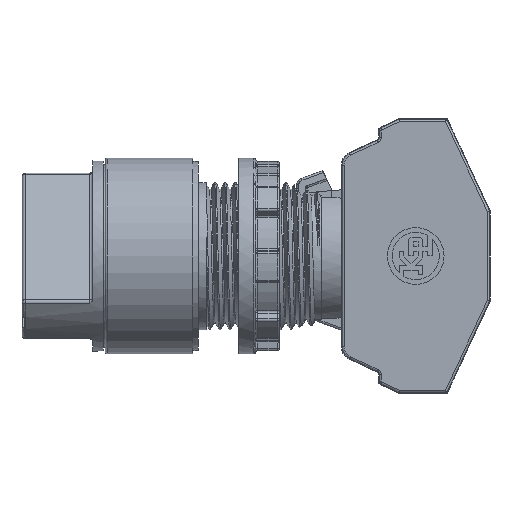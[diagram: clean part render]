
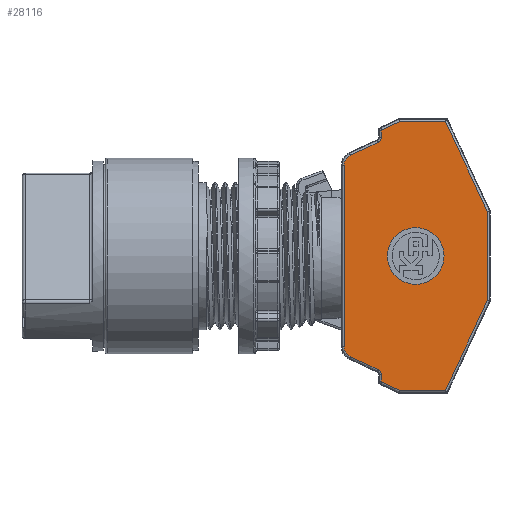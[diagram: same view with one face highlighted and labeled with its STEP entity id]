
A CAD part, front view. The second image highlights one B-rep face of the part: STEP entity #28116.
In plain terms, the highlighted planar face has unit normal (0, -1, 0) as drawn and (0, 0, 1) by its records, which use the part's own axes.
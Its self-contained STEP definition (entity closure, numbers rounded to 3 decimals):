
#23175=CARTESIAN_POINT('',(37.2,0.,14.8));
#23176=VERTEX_POINT('',#23175);
#23177=CARTESIAN_POINT('',(33.0,0.,14.8));
#23178=DIRECTION('',(0.0,0.0,-1.0));
#23179=DIRECTION('',(-1.0,0.0,0.0));
#23180=AXIS2_PLACEMENT_3D('',#23177,#23178,#23179);
#23181=CIRCLE('',#23180,4.2);
#23182=EDGE_CURVE('',#23176,#23176,#23181,.T.);
#27301=CARTESIAN_POINT('',(27.9,18.519,14.8));
#27302=VERTEX_POINT('',#27301);
#27310=CARTESIAN_POINT('',(28.015,18.7,14.8));
#27311=VERTEX_POINT('',#27310);
#27312=CARTESIAN_POINT('',(28.1,18.519,14.8));
#27313=DIRECTION('',(0.,0.,-1.0));
#27314=DIRECTION('',(-0.843,0.537,0.));
#27315=AXIS2_PLACEMENT_3D('',#27312,#27313,#27314);
#27316=CIRCLE('',#27315,0.2);
#27317=EDGE_CURVE('',#27302,#27311,#27316,.T.);
#27345=CARTESIAN_POINT('',(27.9,17.555,14.8));
#27346=VERTEX_POINT('',#27345);
#27354=CARTESIAN_POINT('',(27.9,17.555,14.8));
#27355=DIRECTION('',(0.0,1.0,0.0));
#27356=VECTOR('',#27355,0.964);
#27357=LINE('',#27354,#27356);
#27358=EDGE_CURVE('',#27346,#27302,#27357,.T.);
#27384=CARTESIAN_POINT('',(30.589,19.9,14.8));
#27385=VERTEX_POINT('',#27384);
#27386=CARTESIAN_POINT('',(28.015,18.7,14.8));
#27387=DIRECTION('',(0.906,0.423,0.));
#27388=VECTOR('',#27387,2.839);
#27389=LINE('',#27386,#27388);
#27390=EDGE_CURVE('',#27311,#27385,#27389,.T.);
#27409=CARTESIAN_POINT('',(27.438,16.83,14.8));
#27410=VERTEX_POINT('',#27409);
#27418=CARTESIAN_POINT('',(27.1,17.555,14.8));
#27419=DIRECTION('',(0.,0.,1.0));
#27420=DIRECTION('',(0.843,-0.537,0.));
#27421=AXIS2_PLACEMENT_3D('',#27418,#27419,#27420);
#27422=CIRCLE('',#27421,0.8);
#27423=EDGE_CURVE('',#27410,#27346,#27422,.T.);
#27441=CARTESIAN_POINT('',(37.403,19.9,14.8));
#27442=VERTEX_POINT('',#27441);
#27443=CARTESIAN_POINT('',(30.589,19.9,14.8));
#27444=DIRECTION('',(1.0,0.0,0.0));
#27445=VECTOR('',#27444,6.815);
#27446=LINE('',#27443,#27445);
#27447=EDGE_CURVE('',#27385,#27442,#27446,.T.);
#27475=CARTESIAN_POINT('',(23.324,14.911,14.8));
#27476=VERTEX_POINT('',#27475);
#27484=CARTESIAN_POINT('',(23.324,14.911,14.8));
#27485=DIRECTION('',(0.906,0.423,0.0));
#27486=VECTOR('',#27485,4.54);
#27487=LINE('',#27484,#27486);
#27488=EDGE_CURVE('',#27476,#27410,#27487,.T.);
#27505=CARTESIAN_POINT('',(43.6,6.611,14.8));
#27506=VERTEX_POINT('',#27505);
#27507=CARTESIAN_POINT('',(37.403,19.9,14.8));
#27508=DIRECTION('',(0.423,-0.906,0.));
#27509=VECTOR('',#27508,14.662);
#27510=LINE('',#27507,#27509);
#27511=EDGE_CURVE('',#27442,#27506,#27510,.T.);
#27537=CARTESIAN_POINT('',(22.4,13.461,14.8));
#27538=VERTEX_POINT('',#27537);
#27546=CARTESIAN_POINT('',(24.,13.461,14.8));
#27547=DIRECTION('',(0.,0.,-1.0));
#27548=DIRECTION('',(-0.843,0.537,0.));
#27549=AXIS2_PLACEMENT_3D('',#27546,#27547,#27548);
#27550=CIRCLE('',#27549,1.6);
#27551=EDGE_CURVE('',#27538,#27476,#27550,.T.);
#27569=CARTESIAN_POINT('',(43.6,-6.611,14.8));
#27570=VERTEX_POINT('',#27569);
#27571=CARTESIAN_POINT('',(43.6,6.611,14.8));
#27572=DIRECTION('',(0.0,-1.0,0.0));
#27573=VECTOR('',#27572,13.223);
#27574=LINE('',#27571,#27573);
#27575=EDGE_CURVE('',#27506,#27570,#27574,.T.);
#27601=CARTESIAN_POINT('',(22.4,-13.461,14.8));
#27602=VERTEX_POINT('',#27601);
#27610=CARTESIAN_POINT('',(22.4,-13.461,14.8));
#27611=DIRECTION('',(0.0,1.0,0.0));
#27612=VECTOR('',#27611,26.922);
#27613=LINE('',#27610,#27612);
#27614=EDGE_CURVE('',#27602,#27538,#27613,.T.);
#27626=CARTESIAN_POINT('',(37.403,-19.9,14.8));
#27627=VERTEX_POINT('',#27626);
#27628=CARTESIAN_POINT('',(43.6,-6.611,14.8));
#27629=DIRECTION('',(-0.423,-0.906,0.));
#27630=VECTOR('',#27629,14.662);
#27631=LINE('',#27628,#27630);
#27632=EDGE_CURVE('',#27570,#27627,#27631,.T.);
#27660=CARTESIAN_POINT('',(23.324,-14.911,14.8));
#27661=VERTEX_POINT('',#27660);
#27669=CARTESIAN_POINT('',(24.,-13.461,14.8));
#27670=DIRECTION('',(0.,0.,-1.0));
#27671=DIRECTION('',(-0.843,-0.537,0.));
#27672=AXIS2_PLACEMENT_3D('',#27669,#27670,#27671);
#27673=CIRCLE('',#27672,1.6);
#27674=EDGE_CURVE('',#27661,#27602,#27673,.T.);
#27692=CARTESIAN_POINT('',(30.589,-19.9,14.8));
#27693=VERTEX_POINT('',#27692);
#27694=CARTESIAN_POINT('',(37.403,-19.9,14.8));
#27695=DIRECTION('',(-1.0,0.0,0.0));
#27696=VECTOR('',#27695,6.815);
#27697=LINE('',#27694,#27696);
#27698=EDGE_CURVE('',#27627,#27693,#27697,.T.);
#27726=CARTESIAN_POINT('',(27.438,-16.83,14.8));
#27727=VERTEX_POINT('',#27726);
#27735=CARTESIAN_POINT('',(27.438,-16.83,14.8));
#27736=DIRECTION('',(-0.906,0.423,0.0));
#27737=VECTOR('',#27736,4.54);
#27738=LINE('',#27735,#27737);
#27739=EDGE_CURVE('',#27727,#27661,#27738,.T.);
#27756=CARTESIAN_POINT('',(28.015,-18.7,14.8));
#27757=VERTEX_POINT('',#27756);
#27774=CARTESIAN_POINT('',(30.589,-19.9,14.8));
#27775=DIRECTION('',(-0.906,0.423,0.0));
#27776=VECTOR('',#27775,2.839);
#27777=LINE('',#27774,#27776);
#27778=EDGE_CURVE('',#27693,#27757,#27777,.T.);
#27790=CARTESIAN_POINT('',(27.9,-17.555,14.8));
#27791=VERTEX_POINT('',#27790);
#27799=CARTESIAN_POINT('',(27.1,-17.555,14.8));
#27800=DIRECTION('',(0.,0.,1.0));
#27801=DIRECTION('',(0.843,0.537,0.));
#27802=AXIS2_PLACEMENT_3D('',#27799,#27800,#27801);
#27803=CIRCLE('',#27802,0.8);
#27804=EDGE_CURVE('',#27791,#27727,#27803,.T.);
#27840=CARTESIAN_POINT('',(27.9,-18.519,14.8));
#27841=VERTEX_POINT('',#27840);
#27859=CARTESIAN_POINT('',(28.1,-18.519,14.8));
#27860=DIRECTION('',(0.,0.,-1.0));
#27861=DIRECTION('',(-0.843,-0.537,0.));
#27862=AXIS2_PLACEMENT_3D('',#27859,#27860,#27861);
#27863=CIRCLE('',#27862,0.2);
#27864=EDGE_CURVE('',#27757,#27841,#27863,.T.);
#27882=CARTESIAN_POINT('',(27.9,-18.519,14.8));
#27883=DIRECTION('',(0.0,1.0,0.0));
#27884=VECTOR('',#27883,0.964);
#27885=LINE('',#27882,#27884);
#27886=EDGE_CURVE('',#27841,#27791,#27885,.T.);
#28088=CARTESIAN_POINT('',(32.411,0.,14.8));
#28089=DIRECTION('',(0.0,0.0,1.0));
#28090=DIRECTION('',(1.0,0.0,0.0));
#28091=AXIS2_PLACEMENT_3D('',#28088,#28089,#28090);
#28092=PLANE('',#28091);
#28093=ORIENTED_EDGE('',*,*,#27317,.F.);
#28094=ORIENTED_EDGE('',*,*,#27358,.F.);
#28095=ORIENTED_EDGE('',*,*,#27423,.F.);
#28096=ORIENTED_EDGE('',*,*,#27488,.F.);
#28097=ORIENTED_EDGE('',*,*,#27551,.F.);
#28098=ORIENTED_EDGE('',*,*,#27614,.F.);
#28099=ORIENTED_EDGE('',*,*,#27674,.F.);
#28100=ORIENTED_EDGE('',*,*,#27739,.F.);
#28101=ORIENTED_EDGE('',*,*,#27804,.F.);
#28102=ORIENTED_EDGE('',*,*,#27886,.F.);
#28103=ORIENTED_EDGE('',*,*,#27864,.F.);
#28104=ORIENTED_EDGE('',*,*,#27778,.F.);
#28105=ORIENTED_EDGE('',*,*,#27698,.F.);
#28106=ORIENTED_EDGE('',*,*,#27632,.F.);
#28107=ORIENTED_EDGE('',*,*,#27575,.F.);
#28108=ORIENTED_EDGE('',*,*,#27511,.F.);
#28109=ORIENTED_EDGE('',*,*,#27447,.F.);
#28110=ORIENTED_EDGE('',*,*,#27390,.F.);
#28111=EDGE_LOOP('',(#28093,#28094,#28095,#28096,#28097,#28098,#28099,#28100,#28101,#28102,#28103,#28104,#28105,#28106,#28107,#28108,#28109,#28110));
#28112=FACE_OUTER_BOUND('',#28111,.T.);
#28113=ORIENTED_EDGE('',*,*,#23182,.T.);
#28114=EDGE_LOOP('',(#28113));
#28115=FACE_BOUND('',#28114,.T.);
#28116=ADVANCED_FACE('',(#28112,#28115),#28092,.T.);
